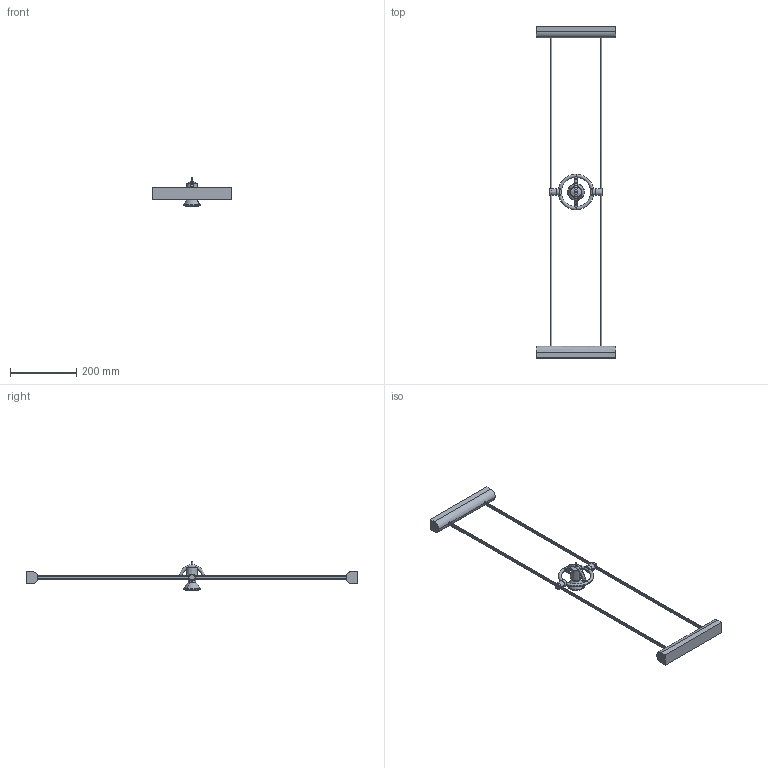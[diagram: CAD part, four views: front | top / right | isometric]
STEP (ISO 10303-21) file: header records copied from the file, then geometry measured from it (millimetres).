
FILE_DESCRIPTION((''),'2;1');
FILE_NAME('CINI&NILS - miniTensoFariuno 3D.stp','2010-04-02T11:32:58',(''),(''),'AutoCAD STEP 2000i','AutoCAD 2000i',', , ');
FILE_SCHEMA(('CONFIG_CONTROL_DESIGN'));
Length unit declared in the file: millimetre
Products named in the file (1): CINI&NILS - MINITENSOFARIUNO 3D
Bounding box: 240 x 1000 x 88.09 mm (x, y, z)
Volume: 770399.2 mm3; surface area: 146054.9 mm2
Topology: 2 solids, 3 shells, 267 faces, 778 edges, 516 vertices
Faces by surface type: bspline 144, cylinder 66, plane 43, torus 11, sphere 3
Entity records: 12037 total; most frequent: CARTESIAN_POINT 5549, ORIENTED_EDGE 1550, DIRECTION 1088, EDGE_CURVE 775, VERTEX_POINT 515, AXIS2_PLACEMENT_3D 405, VECTOR 278, LINE 278
